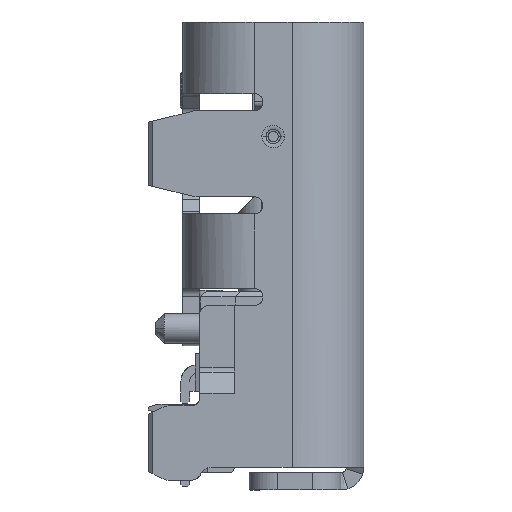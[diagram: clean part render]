
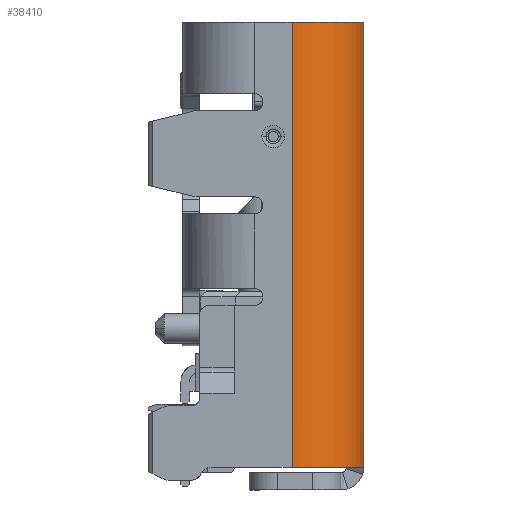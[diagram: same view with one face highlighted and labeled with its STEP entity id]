
A CAD part, left-side view. The second image highlights one B-rep face of the part: STEP entity #38410.
In plain terms, the highlighted cylindrical face has radius 1.25 mm (diameter 2.5 mm), a partial arc.
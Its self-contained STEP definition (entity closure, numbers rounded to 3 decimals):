
#66 = CARTESIAN_POINT ( 'NONE',  ( -4.47, -1.61, -7.77 ) ) ;
#611 = CARTESIAN_POINT ( 'NONE',  ( -4.47, -1.776, -7.77 ) ) ;
#1655 = VERTEX_POINT ( 'NONE', #31279 ) ;
#1673 = B_SPLINE_CURVE_WITH_KNOTS ( 'NONE', 3,
 ( #18303, #18935, #27928, #9000 ),
 .UNSPECIFIED., .F., .F.,
 ( 4, 4 ),
 ( 0., 1. ),
 .UNSPECIFIED. ) ;
#4457 = CARTESIAN_POINT ( 'NONE',  ( -3.851, -2.702, -7.77 ) ) ;
#5410 = CARTESIAN_POINT ( 'NONE',  ( -4.438, -1.935, -7.77 ) ) ;
#5955 = CARTESIAN_POINT ( 'NONE',  ( -3.22, -2.86, 0. ) ) ;
#8698 = CARTESIAN_POINT ( 'NONE',  ( -4.47, -1.61, 0. ) ) ;
#9000 = CARTESIAN_POINT ( 'NONE',  ( -3.22, -2.86, 0. ) ) ;
#10178 = VERTEX_POINT ( 'NONE', #66 ) ;
#10723 = EDGE_LOOP ( 'NONE', ( #43730, #63042, #45702, #51740 ) ) ;
#11621 = CARTESIAN_POINT ( 'NONE',  ( -4.47, -1.61, -2.59 ) ) ;
#11993 = CARTESIAN_POINT ( 'NONE',  ( -3.22, -1.61, -7.77 ) ) ;
#12613 = DIRECTION ( 'NONE',  ( 1., 0., 0. ) ) ;
#12797 = B_SPLINE_CURVE_WITH_KNOTS ( 'NONE', 3,
 ( #44523, #18017, #49042, #4457, #49364, #33633, #19826, #5410, #611, #30087 ),
 .UNSPECIFIED., .F., .F.,
 ( 4, 2, 2, 2, 4 ),
 ( 0., 0.25, 0.5, 0.75, 1. ),
 .UNSPECIFIED. ) ;
#14412 = EDGE_CURVE ( 'NONE', #51570, #10178, #12797, .T. ) ;
#16869 = EDGE_CURVE ( 'NONE', #51570, #39205, #1673, .T. ) ;
#17690 = CARTESIAN_POINT ( 'NONE',  ( -4.22, -2.378, 0. ) ) ;
#18017 = CARTESIAN_POINT ( 'NONE',  ( -3.386, -2.86, -7.77 ) ) ;
#18303 = CARTESIAN_POINT ( 'NONE',  ( -3.22, -2.86, -7.77 ) ) ;
#18935 = CARTESIAN_POINT ( 'NONE',  ( -3.22, -2.86, -5.18 ) ) ;
#19819 = EDGE_CURVE ( 'NONE', #1655, #10178, #41714, .T. ) ;
#19826 = CARTESIAN_POINT ( 'NONE',  ( -4.311, -2.241, -7.77 ) ) ;
#21586 = CYLINDRICAL_SURFACE ( 'NONE', #50574, 1.25 ) ;
#21852 = CARTESIAN_POINT ( 'NONE',  ( -4.47, -1.61, -7.77 ) ) ;
#23121 = CARTESIAN_POINT ( 'NONE',  ( -3.384, -2.86, 0. ) ) ;
#23424 = CARTESIAN_POINT ( 'NONE',  ( -3.988, -2.61, 0. ) ) ;
#25700 = CARTESIAN_POINT ( 'NONE',  ( -4.47, -1.61, -5.18 ) ) ;
#27295 = CARTESIAN_POINT ( 'NONE',  ( -3.85, -2.702, 0. ) ) ;
#27928 = CARTESIAN_POINT ( 'NONE',  ( -3.22, -2.86, -2.59 ) ) ;
#30087 = CARTESIAN_POINT ( 'NONE',  ( -4.47, -1.61, -7.77 ) ) ;
#31279 = CARTESIAN_POINT ( 'NONE',  ( -4.47, -1.61, 0. ) ) ;
#32120 = CARTESIAN_POINT ( 'NONE',  ( -4.312, -2.24, 0. ) ) ;
#32782 = FACE_OUTER_BOUND ( 'NONE', #10723, .T. ) ;
#33633 = CARTESIAN_POINT ( 'NONE',  ( -4.221, -2.377, -7.77 ) ) ;
#37862 = CARTESIAN_POINT ( 'NONE',  ( -3.547, -2.827, 0. ) ) ;
#38410 = ADVANCED_FACE ( 'NONE', ( #32782 ), #21586, .T. ) ;
#39205 = VERTEX_POINT ( 'NONE', #5955 ) ;
#40910 = B_SPLINE_CURVE_WITH_KNOTS ( 'NONE', 3,
 ( #62567, #23121, #37862, #27295, #23424, #17690, #32120, #51712, #46571, #8698 ),
 .UNSPECIFIED., .F., .F.,
 ( 4, 2, 2, 2, 4 ),
 ( 0., 0.25, 0.5, 0.75, 1. ),
 .UNSPECIFIED. ) ;
#41292 = EDGE_CURVE ( 'NONE', #39205, #1655, #40910, .T. ) ;
#41714 = B_SPLINE_CURVE_WITH_KNOTS ( 'NONE', 3,
 ( #55575, #11621, #25700, #21852 ),
 .UNSPECIFIED., .F., .F.,
 ( 4, 4 ),
 ( 0., 1. ),
 .UNSPECIFIED. ) ;
#43730 = ORIENTED_EDGE ( 'NONE', *, *, #14412, .F. ) ;
#44523 = CARTESIAN_POINT ( 'NONE',  ( -3.22, -2.86, -7.77 ) ) ;
#45702 = ORIENTED_EDGE ( 'NONE', *, *, #41292, .T. ) ;
#46571 = CARTESIAN_POINT ( 'NONE',  ( -4.47, -1.774, 0. ) ) ;
#49042 = CARTESIAN_POINT ( 'NONE',  ( -3.546, -2.828, -7.77 ) ) ;
#49364 = CARTESIAN_POINT ( 'NONE',  ( -3.987, -2.611, -7.77 ) ) ;
#50574 = AXIS2_PLACEMENT_3D ( 'NONE', #11993, #51747, #12613 ) ;
#51570 = VERTEX_POINT ( 'NONE', #61561 ) ;
#51712 = CARTESIAN_POINT ( 'NONE',  ( -4.437, -1.937, 0. ) ) ;
#51740 = ORIENTED_EDGE ( 'NONE', *, *, #19819, .T. ) ;
#51747 = DIRECTION ( 'NONE',  ( 0., 0., 1. ) ) ;
#55575 = CARTESIAN_POINT ( 'NONE',  ( -4.47, -1.61, 0. ) ) ;
#61561 = CARTESIAN_POINT ( 'NONE',  ( -3.22, -2.86, -7.77 ) ) ;
#62567 = CARTESIAN_POINT ( 'NONE',  ( -3.22, -2.86, 0. ) ) ;
#63042 = ORIENTED_EDGE ( 'NONE', *, *, #16869, .T. ) ;
